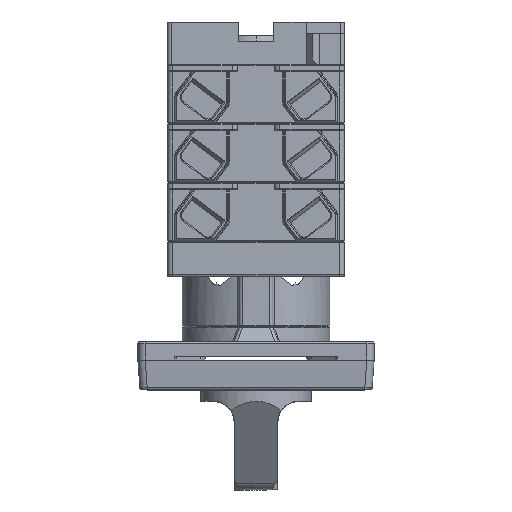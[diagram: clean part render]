
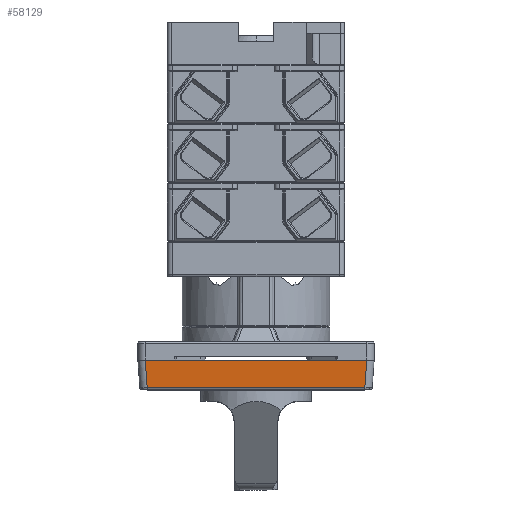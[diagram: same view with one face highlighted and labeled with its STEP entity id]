
A CAD part, front view. The second image highlights one B-rep face of the part: STEP entity #58129.
In plain terms, the highlighted planar face has unit normal (0, -0.998, -0.07).
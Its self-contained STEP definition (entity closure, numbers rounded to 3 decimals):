
#1721 = CARTESIAN_POINT ( 'NONE',  ( -23.117, -36.584, -243.217 ) ) ;
#6351 = LINE ( 'NONE', #66857, #52887 ) ;
#7728 = DIRECTION ( 'NONE',  ( 0., 0.07, -0.998 ) ) ;
#13722 = ORIENTED_EDGE ( 'NONE', *, *, #181033, .T. ) ;
#19688 = DIRECTION ( 'NONE',  ( 1., 0., 0. ) ) ;
#23678 = ORIENTED_EDGE ( 'NONE', *, *, #40826, .T. ) ;
#25740 = EDGE_LOOP ( 'NONE', ( #181557, #13722, #136891, #23678 ) ) ;
#26878 = DIRECTION ( 'NONE',  ( 0.07, 0.07, -0.995 ) ) ;
#33634 = VERTEX_POINT ( 'NONE', #118867 ) ;
#40198 = CARTESIAN_POINT ( 'NONE',  ( 36.376, -37.12, -235.544 ) ) ;
#40826 = EDGE_CURVE ( 'NONE', #33634, #111404, #92408, .T. ) ;
#42660 = CARTESIAN_POINT ( 'NONE',  ( -23.498, -36.965, -237.76 ) ) ;
#43038 = VERTEX_POINT ( 'NONE', #180139 ) ;
#52887 = VECTOR ( 'NONE', #19688, 1000. ) ;
#52943 = DIRECTION ( 'NONE',  ( 0., 0.998, 0.07 ) ) ;
#57329 = LINE ( 'NONE', #40198, #177449 ) ;
#58129 = ADVANCED_FACE ( 'NONE', ( #82047 ), #69325, .F. ) ;
#66857 = CARTESIAN_POINT ( 'NONE',  ( 35.807, -36.584, -243.217 ) ) ;
#69325 = PLANE ( 'NONE',  #125473 ) ;
#73969 = EDGE_CURVE ( 'NONE', #111404, #119101, #188918, .T. ) ;
#77628 = VECTOR ( 'NONE', #154520, 1000. ) ;
#82047 = FACE_OUTER_BOUND ( 'NONE', #25740, .T. ) ;
#92408 = LINE ( 'NONE', #140826, #77628 ) ;
#111404 = VERTEX_POINT ( 'NONE', #198268 ) ;
#118867 = CARTESIAN_POINT ( 'NONE',  ( 36.366, -37.111, -235.682 ) ) ;
#119101 = VERTEX_POINT ( 'NONE', #1721 ) ;
#125473 = AXIS2_PLACEMENT_3D ( 'NONE', #133075, #52943, #7728 ) ;
#133075 = CARTESIAN_POINT ( 'NONE',  ( 6.361, -37.111, -235.682 ) ) ;
#136891 = ORIENTED_EDGE ( 'NONE', *, *, #185369, .T. ) ;
#140826 = CARTESIAN_POINT ( 'NONE',  ( 38.361, -37.111, -235.682 ) ) ;
#144869 = VECTOR ( 'NONE', #26878, 1000. ) ;
#149687 = DIRECTION ( 'NONE',  ( 0.07, -0.07, 0.995 ) ) ;
#154520 = DIRECTION ( 'NONE',  ( -1., 0., 0. ) ) ;
#177449 = VECTOR ( 'NONE', #149687, 1000. ) ;
#180139 = CARTESIAN_POINT ( 'NONE',  ( 35.839, -36.584, -243.217 ) ) ;
#181033 = EDGE_CURVE ( 'NONE', #119101, #43038, #6351, .T. ) ;
#181557 = ORIENTED_EDGE ( 'NONE', *, *, #73969, .T. ) ;
#185369 = EDGE_CURVE ( 'NONE', #43038, #33634, #57329, .T. ) ;
#188918 = LINE ( 'NONE', #42660, #144869 ) ;
#198268 = CARTESIAN_POINT ( 'NONE',  ( -23.644, -37.111, -235.682 ) ) ;
